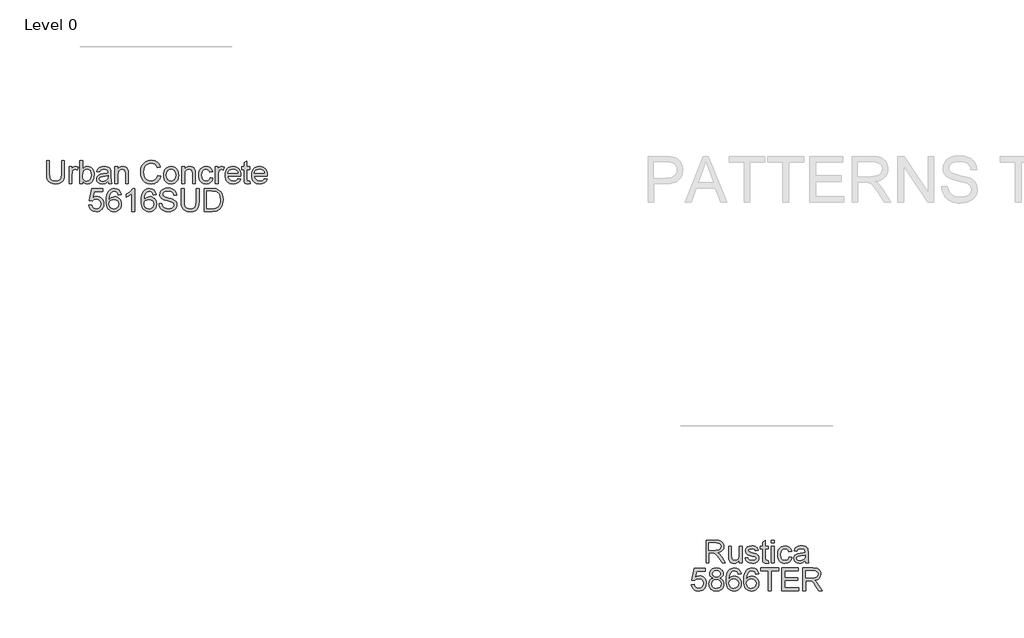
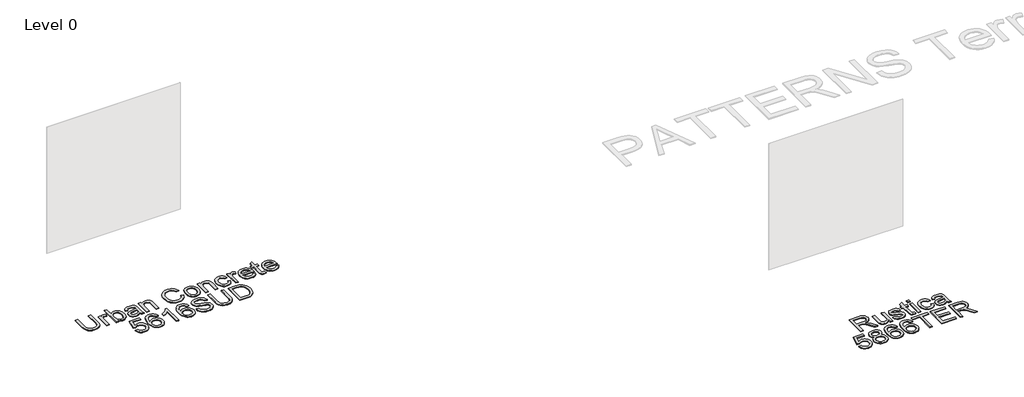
# One storey, part 16 of 29: 2 proxies.
"""IFC4 building model written with IfcOpenShell, lengths in millimetres."""

from ifc_helpers import new_model, si_unit, origin, origin_with_axes, place, context, project, spatial, polyline, outline, extrude, element, save

model = new_model("IFC4")

# Units and contexts
model_context = context("Model", 3, world=origin())
ifc_project = project(units=[si_unit("LENGTHUNIT", "METRE", prefix="MILLI")], contexts=[model_context])

# Site, building, storey
site = spatial("IfcSite", under=ifc_project)
building = spatial("IfcBuilding", under=site)
storey = spatial("IfcBuildingStorey", under=building, Name="Level 0", Elevation=0.0)

# Proxies
placement = place(None, origin())
element("IfcBuildingElementProxy", 1, Name="300mm Arial", ObjectType="300mm Arial", at=placement, inside=storey, context=model_context, shape_type="SweptSolid", body=[
    extrude(outline(polyline([(9400.2075826, -16709.4915635), (9437.8786989, -16709.4915635), (9437.8786989, -16883.3525945), (9435.321919, -16924.0679343), (9427.6515794, -16955.4206773), (9413.3225757, -16979.6089185), (9390.7898035, -16998.8307527), (9359.9980805, -17011.3847258), (9320.8922244, -17015.5693835), (9282.641694, -17011.9273518), (9252.0615031, -17001.0012565), (9229.1424548, -16983.1681768), (9213.875352, -16958.8051917), (9205.2945045, -16926.1280734), (9202.434222, -16883.3525945), (9202.434222, -16709.4915635), (9240.1053383, -16709.4915635), (9240.1053383, -16882.0282193), (9241.9631424, -16915.8825599), (9247.5365546, -16939.4545987), (9257.6349154, -16955.7793623), (9273.0675651, -16967.8918769), (9293.1907102, -16975.3966696), (9317.3605573, -16977.8982672), (9355.6754671, -16972.9502544), (9370.0182664, -16966.7652383), (9381.1512953, -16958.1062159), (9389.488421, -16945.9293218), (9395.4435108, -16929.1906911), (9400.2075826, -16882.0282193), (9400.2075826, -16709.4915635)])), origin_with_axes(), (0.0, 0.0, 1.0), 10.0),
    extrude(outline(polyline([(9499.0942629, -17010.860494), (9499.0942629, -16789.5426857), (9532.0564897, -16789.5426857), (9532.0564897, -16822.2841833), (9544.2333837, -16803.3014723), (9555.4537846, -16792.1178596), (9566.7109736, -16786.654812), (9578.9982323, -16784.8337961), (9597.760214, -16787.7400639), (9616.8165014, -16796.4588672), (9604.2349371, -16830.2304343), (9590.9911853, -16824.4362929), (9577.7474335, -16822.5049125), (9566.4994415, -16824.3627165), (9556.447066, -16829.9361288), (9548.3260709, -16838.8020848), (9542.8722203, -16850.5375205), (9538.2920895, -16871.5803706), (9536.7653792, -16894.5362071), (9536.7653792, -17010.860494), (9499.0942629, -17010.860494)])), origin_with_axes(), (0.0, 0.0, 1.0), 10.0),
    extrude(outline(polyline([(9678.0320654, -17010.860494), (9640.3609491, -17010.860494), (9640.3609491, -16709.4915635), (9678.0320654, -16709.4915635), (9678.0320654, -16821.2541137), (9690.4204916, -16805.3202248), (9704.4092044, -16793.9388755), (9719.998204, -16787.110066), (9737.1874902, -16784.8337961), (9756.5932654, -16786.8847383), (9774.9321829, -16793.0375646), (9791.1557789, -16802.9059992), (9804.2155897, -16816.1037657), (9814.4519062, -16832.5021057), (9822.2050193, -16851.9722603), (9827.0886528, -16873.7048891), (9828.7165306, -16896.8906519), (9827.0311712, -16923.64487), (9821.975093, -16947.1801206), (9813.5482961, -16967.4964038), (9801.7507803, -16984.5937195), (9787.5896228, -16998.1455725), (9772.0719004, -17007.8254675), (9755.1976131, -17013.6334045), (9736.966761, -17015.5693835), (9719.2118562, -17013.0723845), (9703.4711053, -17005.5813874), (9689.7445084, -16993.0963921), (9678.0320654, -16975.6173988), (9678.0320654, -17010.860494)]), holes=[polyline([(9678.0320654, -16898.6564855), (9680.6072393, -16930.0736078), (9688.3327612, -16951.3371872), (9697.4608332, -16962.9576597), (9708.0696303, -16971.2579972), (9720.1591523, -16976.2381997), (9733.7293994, -16977.8982672), (9755.4712253, -16973.0054367), (9774.0492661, -16958.3269451), (9786.7963772, -16933.9547629), (9791.0454143, -16899.9808606), (9786.9711212, -16865.5103177), (9774.7482419, -16841.414047), (9756.7496153, -16827.2321961), (9735.3480802, -16822.5049125), (9713.6062543, -16827.397743), (9695.0282135, -16842.0762346), (9682.2811024, -16866.0069584), (9678.0320654, -16898.6564855)])]), origin_with_axes(), (0.0, 0.0, 1.0), 10.0),
    extrude(outline(polyline([(10012.3632226, -16982.6071568), (9994.364596, -16998.0398064), (9975.8325405, -17008.1381672), (9956.3439918, -17013.7115794), (9935.4758856, -17015.5693835), (9903.9943839, -17011.0996173), (9880.7718329, -16997.6903186), (9866.4520262, -16977.3280501), (9861.6787574, -16951.9993748), (9863.4813791, -16936.3827841), (9868.8892445, -16922.2009331), (9877.2309687, -16910.0608273), (9887.8351672, -16900.5694718), (9914.2123063, -16888.2086368), (9946.806651, -16882.5432541), (9985.3238959, -16876.5835657), (10012.1424934, -16869.5938078), (10012.3632226, -16861.2060983), (10009.7696545, -16844.3938912), (10001.9889503, -16833.3942195), (9984.5881319, -16825.2272392), (9960.3447085, -16822.5049125), (9937.9039068, -16824.3167313), (9922.2321338, -16829.7521878), (9911.5451618, -16839.8045633), (9904.0587632, -16855.4671392), (9866.3876469, -16850.7582497), (9872.9267494, -16830.156858), (9882.6848193, -16813.9700502), (9896.5723646, -16801.590821), (9915.4998932, -16792.4121652), (9938.6488678, -16786.7283884), (9965.2007508, -16784.8337961), (9990.6673819, -16786.5076592), (10010.8549064, -16791.5292485), (10026.0760239, -16799.0800264), (10036.6434343, -16808.3414556), (10043.6515863, -16819.7917827), (10048.1949289, -16833.9092543), (10050.0343389, -16866.8714811), (10050.0343389, -16913.7396473), (10051.9473253, -16979.1858542), (10059.452118, -17010.860494), (10021.7810017, -17010.860494), (10012.3632226, -16982.6071568)]), holes=[polyline([(10012.3632226, -16907.2649241), (9951.589117, -16918.8164188), (9919.1787132, -16924.9232599), (9904.5002216, -16934.8560738), (9899.3498737, -16949.3506244), (9902.1549739, -16960.5526311), (9910.5702745, -16969.7312869), (9924.4118346, -16975.8565221), (9943.4957131, -16977.8982672), (9963.7292228, -16975.64499), (9981.6082878, -16968.8851583), (9996.1028384, -16958.9247533), (10006.1828051, -16947.069756), (10010.6525713, -16934.8560738), (10012.1424934, -16917.933502), (10012.3632226, -16907.2649241)])]), origin_with_axes(), (0.0, 0.0, 1.0), 10.0),
    extrude(outline(polyline([(10101.8321238, -17010.860494), (10101.8321238, -16789.5426857), (10139.5032401, -16789.5426857), (10139.5032401, -16820.4447733), (10152.5906421, -16804.8649708), (10168.3084003, -16793.7365404), (10186.6565148, -16787.0594822), (10207.6349856, -16784.8337961), (10226.2038293, -16786.6272209), (10243.2091746, -16792.0074951), (10257.3910255, -16800.303234), (10267.4893862, -16810.8430532), (10278.7833635, -16838.5445674), (10280.7699263, -16874.964885), (10280.7699263, -17010.860494), (10243.09881, -17010.860494), (10243.09881, -16880.0416565), (10238.7578024, -16846.7115477), (10232.7521288, -16836.7879309), (10223.4171232, -16829.0900002), (10211.4517613, -16824.1511844), (10197.555019, -16822.5049125), (10175.4912963, -16826.2021265), (10156.6833293, -16837.2937687), (10149.1670403, -16846.3482643), (10143.7982624, -16858.7228949), (10139.5032401, -16893.4325611), (10139.5032401, -17010.860494), (10101.8321238, -17010.860494)])), origin_with_axes(), (0.0, 0.0, 1.0), 10.0),
    extrude(outline(polyline([(10666.8988684, -16903.733257), (10704.5699847, -16913.4453417), (10697.1157758, -16936.872527), (10687.1875604, -16957.3428607), (10674.7853387, -16974.856343), (10659.9091105, -16989.4129737), (10642.8945682, -17000.856403), (10624.0774042, -17009.0302811), (10603.4576183, -17013.9346079), (10581.0352107, -17015.5693835), (10537.3400267, -17010.6213707), (10502.6395576, -16995.7773322), (10476.0416893, -16971.5523028), (10456.6543082, -16938.4613173), (10444.817705, -16899.5577963), (10440.8721706, -16857.8951604), (10445.3327398, -16813.9516561), (10458.7144473, -16776.0046283), (10480.3183175, -16745.2588905), (10509.4453745, -16722.9192564), (10543.9894938, -16709.3168196), (10581.8445511, -16704.782674), (10623.1485021, -16710.6503918), (10641.1172383, -16717.9850391), (10657.2971483, -16728.2535453), (10671.4215177, -16741.1845974), (10683.2236319, -16756.5068825), (10699.8610952, -16794.3251516), (10662.1899789, -16803.3014723), (10649.130168, -16775.8298843), (10631.2878913, -16756.9851291), (10608.4424194, -16746.086625), (10580.3730231, -16742.4537903), (10548.0178017, -16746.4820981), (10521.4383275, -16758.5670217), (10501.2691971, -16777.439368), (10488.1450069, -16801.8299443), (10480.9437169, -16829.4026999), (10478.5432869, -16857.821584), (10481.3851753, -16892.6232207), (10489.9108405, -16922.7159679), (10504.4421793, -16946.9501944), (10525.3010885, -16964.1762688), (10550.3078671, -16974.4677676), (10577.2828144, -16977.8982672), (10608.7275279, -16973.2261659), (10634.929923, -16959.2098619), (10654.7127773, -16935.996508), (10666.8988684, -16903.733257)])), origin_with_axes(), (0.0, 0.0, 1.0), 10.0),
    extrude(outline(polyline([(10742.241101, -16900.2015898), (10744.2782476, -16871.5389839), (10750.3896872, -16846.8403064), (10760.5754199, -16826.1055575), (10774.8354458, -16809.334737), (10789.1920406, -16798.6155754), (10805.0385576, -16790.9590314), (10822.3749966, -16786.3651049), (10841.2013577, -16784.8337961), (10861.9843912, -16786.698498), (10880.7762633, -16792.2926036), (10897.5769742, -16801.6161129), (10912.3865238, -16814.669026), (10924.4737466, -16831.0098843), (10933.1074772, -16850.1972296), (10938.2877155, -16872.2310619), (10940.0144616, -16897.1113811), (10936.9610411, -16935.1687735), (10927.8007794, -16964.1394806), (10912.800391, -16985.8353213), (10892.2265904, -17002.0681143), (10867.7900289, -17012.1940662), (10841.2013577, -17015.5693835), (10820.1148216, -17013.7115794), (10801.1482055, -17008.1381672), (10784.3015094, -16998.8491468), (10769.5747333, -16985.8445183), (10757.6162691, -16969.3450108), (10749.0745091, -16949.5713536), (10743.949453, -16926.5235466), (10742.241101, -16900.2015898)]), holes=[polyline([(10779.9122173, -16900.1280134), (10784.271619, -16934.2214773), (10797.3498239, -16958.5108861), (10817.0315106, -16973.0514219), (10841.2013577, -16977.8982672), (10865.2608402, -16973.0238308), (10884.9057387, -16958.4005215), (10897.9839437, -16933.789216), (10902.3433453, -16898.950791), (10897.9563525, -16865.8506085), (10884.7953741, -16841.8922936), (10865.1228844, -16827.3517577), (10841.2013577, -16822.5049125), (10817.0315106, -16827.3333636), (10797.3498239, -16841.8187172), (10784.271619, -16866.0529436), (10779.9122173, -16900.1280134)])]), origin_with_axes(), (0.0, 0.0, 1.0), 10.0),
    extrude(outline(polyline([(10982.3944675, -17010.860494), (10982.3944675, -16789.5426857), (11020.0655838, -16789.5426857), (11020.0655838, -16820.4447733), (11033.1529857, -16804.8649708), (11048.870744, -16793.7365404), (11067.2188585, -16787.0594822), (11088.1973293, -16784.8337961), (11106.766173, -16786.6272209), (11123.7715182, -16792.0074951), (11137.9533691, -16800.303234), (11148.0517299, -16810.8430532), (11159.3457071, -16838.5445674), (11161.3322699, -16874.964885), (11161.3322699, -17010.860494), (11123.6611536, -17010.860494), (11123.6611536, -16880.0416565), (11119.3201461, -16846.7115477), (11113.3144725, -16836.7879309), (11103.9794669, -16829.0900002), (11092.014105, -16824.1511844), (11078.1173626, -16822.5049125), (11056.0536399, -16826.2021265), (11037.2456729, -16837.2937687), (11029.7293839, -16846.3482643), (11024.3606061, -16858.7228949), (11020.0655838, -16893.4325611), (11020.0655838, -17010.860494), (10982.3944675, -17010.860494)])), origin_with_axes(), (0.0, 0.0, 1.0), 10.0),
    extrude(outline(polyline([(11354.396741, -16930.8093718), (11392.0678573, -16935.5182614), (11381.5648263, -16969.0231141), (11361.8279573, -16994.3425924), (11334.7150542, -17010.2626857), (11302.0839213, -17015.5693835), (11280.9559984, -17013.7184772), (11262.0123749, -17008.1657584), (11245.2530508, -16998.9112269), (11230.678026, -16985.9548829), (11218.8805103, -16969.5404481), (11210.4537133, -16949.9116444), (11205.3976352, -16927.0684718), (11203.7122758, -16901.0109302), (11206.5909524, -16867.4876834), (11215.2269822, -16838.4342028), (11229.758321, -16814.9725286), (11250.3229245, -16798.2247008), (11274.925033, -16788.1815223), (11301.5688865, -16784.8337961), (11333.3998761, -16789.4323211), (11358.8481131, -16803.2278959), (11377.1042571, -16825.4847566), (11387.3589678, -16855.4671392), (11349.6878514, -16860.1760288), (11342.8544434, -16843.7409006), (11332.2134567, -16831.9594797), (11318.3535025, -16824.8685543), (11301.8631921, -16822.5049125), (11277.518601, -16827.1586197), (11258.1955992, -16841.1197414), (11245.5864439, -16865.1424357), (11241.3833921, -16899.9808606), (11245.4944734, -16935.2883351), (11257.8277173, -16959.3938029), (11276.8012312, -16973.2721511), (11300.8331225, -16977.8982672), (11320.3400653, -16975.0103936), (11336.333735, -16966.3467726), (11347.9680031, -16951.6866751), (11354.396741, -16930.8093718)])), origin_with_axes(), (0.0, 0.0, 1.0), 10.0),
    extrude(outline(polyline([(11425.0300841, -17010.860494), (11425.0300841, -16789.5426857), (11457.9923108, -16789.5426857), (11457.9923108, -16822.2841833), (11470.1692049, -16803.3014723), (11481.3896057, -16792.1178596), (11492.6467948, -16786.654812), (11504.9340534, -16784.8337961), (11523.6960352, -16787.7400639), (11542.7523225, -16796.4588672), (11530.1707583, -16830.2304343), (11516.9270065, -16824.4362929), (11503.6832546, -16822.5049125), (11492.4352626, -16824.3627165), (11482.3828871, -16829.9361288), (11474.2618921, -16838.8020848), (11468.8080415, -16850.5375205), (11464.2279106, -16871.5803706), (11462.7012004, -16894.5362071), (11462.7012004, -17010.860494), (11425.0300841, -17010.860494)])), origin_with_axes(), (0.0, 0.0, 1.0), 10.0),
    extrude(outline(polyline([(11721.2486666, -16944.9360404), (11758.1840189, -16949.64493), (11744.8758877, -16977.4752029), (11723.6398995, -16998.2789297), (11694.954301, -17011.2467701), (11659.2973386, -17015.5693835), (11635.9230363, -17013.7046817), (11615.0963169, -17008.1105761), (11596.8171802, -16998.7870668), (11581.0856264, -16985.7341537), (11568.4350843, -16969.3151204), (11559.3989828, -16949.8932503), (11553.9773219, -16927.4685435), (11552.1701016, -16902.0409998), (11553.995716, -16875.7512327), (11559.4725592, -16852.5792656), (11568.6006312, -16832.5250983), (11581.379932, -16815.5887309), (11597.0700991, -16802.133447), (11614.93077, -16792.5225298), (11634.9619446, -16786.7559796), (11657.163623, -16784.8337961), (11678.6502308, -16786.751381), (11698.0812979, -16792.5041357), (11715.4568244, -16802.0920602), (11730.7768102, -16815.5151545), (11743.2824988, -16832.4147337), (11752.2151335, -16852.4321128), (11757.5747143, -16875.5672917), (11759.3612413, -16901.8202706), (11759.1405121, -16911.9738137), (11589.8412179, -16911.9738137), (11596.3619263, -16940.1719686), (11611.5094674, -16960.902119), (11633.370855, -16973.6492302), (11660.0331026, -16977.8982672), (11680.0826713, -16975.9300985), (11696.9684549, -16970.0255925), (11710.6904533, -16959.8168672), (11721.2486666, -16944.9360404)]), holes=[polyline([(11589.8412179, -16874.3026974), (11721.690125, -16874.3026974), (11716.5949593, -16854.4002814), (11706.6069632, -16840.1632482), (11684.6444081, -16826.9194964), (11657.0164702, -16822.5049125), (11631.6234155, -16826.0273826), (11610.6265506, -16836.5947929), (11596.0308325, -16853.0667092), (11589.8412179, -16874.3026974)])]), origin_with_axes(), (0.0, 0.0, 1.0), 10.0),
    extrude(outline(polyline([(11877.0834797, -16979.4433716), (11881.7923693, -17011.96414), (11853.6126084, -17015.5693835), (11835.5312084, -17014.005885), (11822.0483333, -17009.3153896), (11812.5201896, -17002.0865084), (11806.3029839, -16992.9078526), (11802.8816813, -16977.1441091), (11801.7412471, -16950.1599648), (11801.7412471, -16827.213802), (11773.4879099, -16827.213802), (11773.4879099, -16789.5426857), (11801.7412471, -16789.5426857), (11801.7412471, -16735.758338), (11839.4123634, -16713.6118419), (11839.4123634, -16789.5426857), (11877.0834797, -16789.5426857), (11877.0834797, -16827.213802), (11839.4123634, -16827.213802), (11839.4123634, -16949.0563188), (11841.3989262, -16968.4804881), (11847.8368611, -16975.3598814), (11860.6759427, -16977.8982672), (11877.0834797, -16979.4433716)])), origin_with_axes(), (0.0, 0.0, 1.0), 10.0),
    extrude(outline(polyline([(12069.7064924, -16944.9360404), (12106.6418447, -16949.64493), (12093.3337135, -16977.4752029), (12072.0977254, -16998.2789297), (12043.4121268, -17011.2467701), (12007.7551644, -17015.5693835), (11984.3808621, -17013.7046817), (11963.5541427, -17008.1105761), (11945.2750061, -16998.7870668), (11929.5434522, -16985.7341537), (11916.8929101, -16969.3151204), (11907.8568086, -16949.8932503), (11902.4351477, -16927.4685435), (11900.6279274, -16902.0409998), (11902.4535418, -16875.7512327), (11907.930385, -16852.5792656), (11917.058457, -16832.5250983), (11929.8377578, -16815.5887309), (11945.5279249, -16802.133447), (11963.3885958, -16792.5225298), (11983.4197704, -16786.7559796), (12005.6214488, -16784.8337961), (12027.1080566, -16786.751381), (12046.5391238, -16792.5041357), (12063.9146502, -16802.0920602), (12079.2346361, -16815.5151545), (12091.7403247, -16832.4147337), (12100.6729594, -16852.4321128), (12106.0325402, -16875.5672917), (12107.8190671, -16901.8202706), (12107.5983379, -16911.9738137), (11938.2990437, -16911.9738137), (11944.8197521, -16940.1719686), (11959.9672932, -16960.902119), (11981.8286808, -16973.6492302), (12008.4909284, -16977.8982672), (12028.5404971, -16975.9300985), (12045.4262807, -16970.0255925), (12059.1482791, -16959.8168672), (12069.7064924, -16944.9360404)]), holes=[polyline([(11938.2990437, -16874.3026974), (12070.1479508, -16874.3026974), (12065.0527852, -16854.4002814), (12055.064789, -16840.1632482), (12033.1022339, -16826.9194964), (12005.474296, -16822.5049125), (11980.0812413, -16826.0273826), (11959.0843765, -16836.5947929), (11944.4886583, -16853.0667092), (11938.2990437, -16874.3026974)])]), origin_with_axes(), (0.0, 0.0, 1.0), 10.0),
    extrude(outline(polyline([(9760.4376323, -17296.7338254), (9798.1087486, -17292.0249358), (9805.0249301, -17314.6404815), (9817.0914595, -17330.8364863), (9834.2531546, -17340.5761621), (9856.454833, -17343.8227207), (9883.4573715, -17339.3069693), (9903.6908812, -17325.7597148), (9916.3276277, -17304.7444558), (9920.5398766, -17277.8246908), (9916.5943422, -17252.4776213), (9904.757739, -17233.0902402), (9884.9380965, -17220.7845875), (9857.0434442, -17216.6827032), (9838.7689061, -17218.3197781), (9823.9708528, -17223.2310027), (9802.8176381, -17240.2271509), (9765.1465218, -17235.5182614), (9798.1087486, -17080.1249066), (9944.0843243, -17080.1249066), (9944.0843243, -17117.7960229), (9828.5693778, -17117.7960229), (9812.4561464, -17200.790201), (9839.3667143, -17184.4562404), (9867.5648693, -17179.0115869), (9885.9106845, -17180.6992456), (9902.7619792, -17185.7622215), (9918.1187532, -17194.2005148), (9931.9810066, -17206.0141254), (9943.4566256, -17220.4810848), (9951.6534963, -17236.8794248), (9956.5716187, -17255.2091452), (9958.2109929, -17275.470246), (9952.3064869, -17313.1413624), (9944.9258543, -17329.9351754), (9934.5929688, -17345.3678251), (9918.9395899, -17361.1729553), (9900.6742488, -17372.4623341), (9879.7969456, -17379.2359613), (9856.3076802, -17381.4938371), (9819.3079486, -17375.6904986), (9803.6292778, -17368.4363255), (9789.8314037, -17358.2804832), (9778.3511862, -17345.7288093), (9769.6254851, -17331.2871418), (9760.4376323, -17296.7338254)])), origin_with_axes(), (0.0, 0.0, 1.0), 10.0),
    extrude(outline(polyline([(10184.2376907, -17155.4671392), (10146.5665744, -17160.1760288), (10140.4965215, -17141.5060175), (10132.292753, -17128.7589064), (10115.2046343, -17117.0050766), (10094.5480603, -17113.0871334), (10077.0368773, -17115.3680017), (10060.5557639, -17122.2106069), (10046.4015042, -17136.622384), (10034.8408125, -17156.4604206), (10027.0325171, -17184.5206198), (10024.1354464, -17223.5988847), (10039.2461994, -17205.9681401), (10057.3551906, -17193.5429257), (10077.4507446, -17186.1760888), (10098.5211858, -17183.7204764), (10116.62098, -17185.3989381), (10133.3228226, -17190.4343229), (10148.6267136, -17198.8266309), (10162.532653, -17210.5758621), (10174.0887462, -17224.9830407), (10182.3430985, -17241.349191), (10187.2957098, -17259.6743129), (10188.9465803, -17279.9584064), (10185.8379774, -17306.9333537), (10176.5121688, -17331.9401323), (10161.7417067, -17353.1485293), (10142.2991433, -17368.7283318), (10119.0673953, -17378.3024607), (10092.9293795, -17381.4938371), (10070.472483, -17379.3785156), (10050.1906887, -17373.0325512), (10032.0839968, -17362.4559438), (10016.1524071, -17347.6486935), (10003.1638734, -17327.9854009), (9993.8863494, -17302.8406665), (9988.3198349, -17272.2144904), (9986.4643301, -17236.1068726), (9988.5244693, -17195.6260575), (9994.7048868, -17161.0773396), (10005.0055827, -17132.4607189), (10019.4265569, -17109.7761954), (10035.0569432, -17094.7436174), (10053.1797299, -17084.0060617), (10073.7949172, -17077.5635282), (10096.9025051, -17075.4160171), (10129.9567023, -17080.7319119), (10156.4258119, -17096.6795964), (10174.9670644, -17122.0082718), (10184.2376907, -17155.4671392)]), holes=[polyline([(10024.1354464, -17279.3697952), (10026.3151472, -17296.0624407), (10032.8542497, -17312.0009282), (10043.0077928, -17325.7045325), (10056.0308154, -17335.6925287), (10071.7485737, -17341.7901727), (10089.9863236, -17343.8227207), (10114.8459494, -17339.6104719), (10134.3896804, -17326.9737254), (10147.0540181, -17307.1080976), (10151.275464, -17281.2092052), (10147.1092004, -17256.3495793), (10134.6104096, -17237.3944595), (10114.7355848, -17225.3923095), (10088.4412192, -17221.3915928), (10063.6183816, -17225.3923095), (10042.86064, -17237.3944595), (10028.8167448, -17255.8897269), (10024.1354464, -17279.3697952)])]), origin_with_axes(), (0.0, 0.0, 1.0), 10.0),
    extrude(outline(polyline([(10363.1754932, -17376.7849475), (10325.5043769, -17376.7849475), (10325.5043769, -17141.9290818), (10289.8198233, -17167.3497277), (10250.1621443, -17186.3692268), (10250.1621443, -17150.7582497), (10279.7490537, -17134.6634124), (10305.3812317, -17115.5151545), (10325.5871503, -17095.1528861), (10338.8952815, -17075.4160171), (10363.1754932, -17075.4160171), (10363.1754932, -17376.7849475)])), origin_with_axes(), (0.0, 0.0, 1.0), 10.0),
    extrude(outline(polyline([(10645.7088655, -17155.4671392), (10608.0377492, -17160.1760288), (10601.9676962, -17141.5060175), (10593.7639278, -17128.7589064), (10576.6758091, -17117.0050766), (10556.0192351, -17113.0871334), (10538.5080521, -17115.3680017), (10522.0269387, -17122.2106069), (10507.8726789, -17136.622384), (10496.3119872, -17156.4604206), (10488.5036919, -17184.5206198), (10485.6066212, -17223.5988847), (10500.7173741, -17205.9681401), (10518.8263653, -17193.5429257), (10538.9219193, -17186.1760888), (10559.9923606, -17183.7204764), (10578.0921548, -17185.3989381), (10594.7939973, -17190.4343229), (10610.0978883, -17198.8266309), (10624.0038278, -17210.5758621), (10635.5599209, -17224.9830407), (10643.8142732, -17241.349191), (10648.7668846, -17259.6743129), (10650.417755, -17279.9584064), (10647.3091522, -17306.9333537), (10637.9833436, -17331.9401323), (10623.2128815, -17353.1485293), (10603.770318, -17368.7283318), (10580.53857, -17378.3024607), (10554.4005543, -17381.4938371), (10531.9436577, -17379.3785156), (10511.6618635, -17373.0325512), (10493.5551715, -17362.4559438), (10477.6235819, -17347.6486935), (10464.6350482, -17327.9854009), (10455.3575241, -17302.8406665), (10449.7910097, -17272.2144904), (10447.9355049, -17236.1068726), (10449.995644, -17195.6260575), (10456.1760616, -17161.0773396), (10466.4767574, -17132.4607189), (10480.8977316, -17109.7761954), (10496.5281179, -17094.7436174), (10514.6509047, -17084.0060617), (10535.266092, -17077.5635282), (10558.3736798, -17075.4160171), (10591.4278771, -17080.7319119), (10617.8969866, -17096.6795964), (10636.4382392, -17122.0082718), (10645.7088655, -17155.4671392)]), holes=[polyline([(10485.6066212, -17279.3697952), (10487.786322, -17296.0624407), (10494.3254245, -17312.0009282), (10504.4789675, -17325.7045325), (10517.5019902, -17335.6925287), (10533.2197484, -17341.7901727), (10551.4574983, -17343.8227207), (10576.3171241, -17339.6104719), (10595.8608551, -17326.9737254), (10608.5251928, -17307.1080976), (10612.7466387, -17281.2092052), (10608.5803751, -17256.3495793), (10596.0815843, -17237.3944595), (10576.2067595, -17225.3923095), (10549.9123939, -17221.3915928), (10525.0895563, -17225.3923095), (10504.3318147, -17237.3944595), (10490.2879196, -17255.8897269), (10485.6066212, -17279.3697952)])]), origin_with_axes(), (0.0, 0.0, 1.0), 10.0),
    extrude(outline(polyline([(10683.3799818, -17273.1893777), (10721.0510981, -17273.1893777), (10725.3737115, -17294.0942721), (10733.1912039, -17310.8972822), (10745.3864921, -17324.2330045), (10762.8424927, -17334.7360355), (10784.1796485, -17341.5510494), (10808.0184017, -17343.8227207), (10829.0060696, -17342.1028724), (10847.3817752, -17336.9433274), (10862.271799, -17328.7763471), (10872.8024211, -17318.0341929), (10879.0656121, -17305.700949), (10881.1533424, -17292.7606998), (10879.5898439, -17280.1515444), (10874.8993485, -17269.2530403), (10865.3712048, -17259.9548229), (10849.2947616, -17252.1465276), (10794.4435561, -17237.7623415), (10758.4371058, -17228.2433949), (10735.3984959, -17219.1843008), (10716.6457112, -17206.510766), (10703.3559741, -17191.1516928), (10695.4373142, -17173.4381747), (10692.7977609, -17153.7013056), (10696.0627136, -17131.637583), (10705.8575717, -17111.0637824), (10721.9248178, -17093.6261758), (10744.0069346, -17080.9710352), (10770.5128323, -17073.2731044), (10799.8514215, -17070.7071275), (10831.6364258, -17073.3926661), (10859.4483047, -17081.4492818), (10882.2937766, -17094.7114277), (10899.1795602, -17113.013557), (10909.8665321, -17135.2152354), (10914.1155692, -17160.1760288), (10876.4444529, -17160.1760288), (10869.5282713, -17137.6984389), (10855.1072971, -17121.4748429), (10832.5745249, -17111.6523936), (10801.3229494, -17108.3782438), (10769.33561, -17111.6156054), (10747.3914489, -17121.3276901), (10734.6995201, -17135.6199056), (10730.4688772, -17152.5976597), (10733.4671154, -17167.0738162), (10742.4618302, -17178.7172813), (10763.7254095, -17189.1283418), (10803.9716998, -17199.7601314), (10845.5055771, -17209.8584922), (10870.6319173, -17218.669266), (10892.1070288, -17232.3360821), (10907.089023, -17249.2034716), (10915.8905998, -17269.0874934), (10918.8244587, -17291.8042066), (10915.4491414, -17315.0267576), (10905.3231895, -17336.869751), (10888.8604702, -17355.668521), (10866.4748508, -17369.7584014), (10839.5550858, -17378.5599781), (10809.4899297, -17381.4938371), (10772.5821686, -17378.3300519), (10742.2043128, -17368.8386964), (10718.0068746, -17352.9829824), (10699.640366, -17330.7261217), (10687.849748, -17303.6132187), (10683.3799818, -17273.1893777)])), origin_with_axes(), (0.0, 0.0, 1.0), 10.0),
    extrude(outline(polyline([(11173.1044938, -17075.4160171), (11210.7756101, -17075.4160171), (11210.7756101, -17249.277048), (11208.2188302, -17289.9923878), (11200.5484906, -17321.3451308), (11186.2194869, -17345.533372), (11163.6867147, -17364.7552063), (11132.8949917, -17377.3091794), (11093.7891356, -17381.4938371), (11055.5386052, -17377.8518053), (11024.9584143, -17366.92571), (11002.039366, -17349.0926303), (10986.7722632, -17324.7296452), (10978.1914157, -17292.052527), (10975.3311332, -17249.277048), (10975.3311332, -17075.4160171), (11013.0022495, -17075.4160171), (11013.0022495, -17247.9526728), (11014.8600535, -17281.8070134), (11020.4334658, -17305.3790523), (11030.5318265, -17321.7038158), (11045.9644762, -17333.8163305), (11066.0876214, -17341.3211232), (11090.2574684, -17343.8227207), (11128.5723782, -17338.8747079), (11142.9151775, -17332.6896919), (11154.0482064, -17324.0306694), (11162.3853321, -17311.8537754), (11168.3404219, -17295.1151446), (11173.1044938, -17247.9526728), (11173.1044938, -17075.4160171)])), origin_with_axes(), (0.0, 0.0, 1.0), 10.0),
    extrude(outline(polyline([(11276.7000636, -17376.7849475), (11276.7000636, -17075.4160171), (11380.6635154, -17075.4160171), (11434.4478631, -17079.7570246), (11458.4705574, -17088.12634), (11478.7408554, -17101.3149095), (11499.5813704, -17124.270746), (11514.4254089, -17152.8183889), (11523.3097591, -17186.406015), (11526.2712091, -17224.4818015), (11524.2662523, -17256.8278259), (11518.2513816, -17285.2926953), (11509.09112, -17309.5269217), (11497.6499899, -17329.1810173), (11484.4798145, -17344.6964405), (11470.1324167, -17356.5146496), (11453.6605003, -17365.2794381), (11434.1167693, -17371.6345996), (11385.6667106, -17376.7849475), (11276.7000636, -17376.7849475)]), holes=[polyline([(11314.3711799, -17339.1138312), (11381.0313974, -17339.1138312), (11408.604153, -17337.7526678), (11429.5182444, -17333.6691777), (11445.300382, -17327.1024841), (11457.477276, -17318.2917103), (11470.564678, -17301.9853408), (11480.3963243, -17280.8781114), (11486.5491507, -17254.8780514), (11488.6000928, -17223.8931903), (11484.580982, -17182.8375597), (11472.5236496, -17152.5240833), (11454.708964, -17131.7019623), (11433.4177935, -17119.1203981), (11411.749544, -17114.5954496), (11380.0013278, -17113.0871334), (11314.3711799, -17113.0871334), (11314.3711799, -17339.1138312)])]), origin_with_axes(), (0.0, 0.0, 1.0), 10.0),
])
element("IfcBuildingElementProxy", 2, Name="300mm Arial", ObjectType="300mm Arial", at=placement, inside=storey, context=model_context, shape_type="SweptSolid", body=[
    extrude(outline(polyline([(17883.034074, -22008.860494), (17883.034074, -21707.4915635), (18012.8964183, -21707.4915635), (18047.7992226, -21709.5241116), (18073.1922773, -21715.6217556), (18091.751924, -21726.8789447), (18106.1545041, -21744.3901276), (18115.3975392, -21766.1043624), (18118.4785509, -21789.9707069), (18113.3741883, -21819.6587839), (18098.0611002, -21844.2700893), (18086.461321, -21854.2994722), (18072.0794343, -21862.3147012), (18034.969338, -21872.3026974), (18056.3800702, -21888.4159288), (18086.9142758, -21927.1906911), (18137.1669563, -22008.860494), (18093.3889989, -22008.860494), (18054.1727782, -21946.3941312), (18025.8458646, -21905.0441949), (18005.9434486, -21885.509661), (17988.0275955, -21878.3359621), (17966.1754049, -21877.0115869), (17920.7051903, -21877.0115869), (17920.7051903, -22008.860494), (17883.034074, -22008.860494)]), holes=[polyline([(17920.7051903, -21839.3404706), (18005.0237436, -21839.3404706), (18029.239576, -21838.0068984), (18048.0291489, -21834.0061817), (18062.1742116, -21827.0716061), (18072.4565133, -21816.9364571), (18078.7197043, -21804.6767896), (18080.8074346, -21791.3686584), (18076.825112, -21772.9929528), (18064.8781442, -21758.1857025), (18044.3227378, -21748.4184355), (18014.5150991, -21745.1626798), (17920.7051903, -21745.1626798), (17920.7051903, -21839.3404706)])]), origin_with_axes(), (0.0, 0.0, 1.0), 10.0),
    extrude(outline(polyline([(18320.9608011, -22008.860494), (18320.9608011, -21970.8214957), (18307.3307732, -21989.5236966), (18291.4566651, -22002.8824116), (18273.3384768, -22010.8976405), (18252.9762084, -22013.5693835), (18234.6280939, -22011.6931853), (18217.5491722, -22006.0645908), (18203.2201685, -21997.6033049), (18193.1218078, -21987.2290327), (18181.9014069, -21959.4907302), (18179.6941149, -21924.4683643), (18179.6941149, -21787.5426857), (18217.3652312, -21787.5426857), (18217.3652312, -21906.7364521), (18219.6460996, -21945.1433324), (18225.1367384, -21957.9548229), (18234.5453204, -21967.6944987), (18247.2464463, -21973.8473251), (18262.6147167, -21975.8982672), (18278.8659038, -21973.8013398), (18294.0686272, -21967.5105577), (18306.6042062, -21957.605335), (18314.85396, -21944.6650858), (18319.4340908, -21926.9423707), (18320.9608011, -21902.6897502), (18320.9608011, -21787.5426857), (18358.6319174, -21787.5426857), (18358.6319174, -22008.860494), (18320.9608011, -22008.860494)])), origin_with_axes(), (0.0, 0.0, 1.0), 10.0),
    extrude(outline(polyline([(18396.3030337, -21942.9360404), (18433.97415, -21938.2271509), (18439.9154442, -21954.3403823), (18451.4117566, -21966.1861825), (18468.5366635, -21973.470246), (18491.3637413, -21975.8982672), (18513.9149076, -21973.6725811), (18529.7706215, -21966.9955229), (18539.1516124, -21957.3202265), (18542.2786094, -21946.0998256), (18539.1332183, -21936.4981055), (18529.6970452, -21929.1772538), (18490.9222829, -21918.4350996), (18434.1948792, -21900.0042116), (18419.8382843, -21890.7427824), (18409.4364209, -21878.4831149), (18403.1180477, -21864.0069584), (18401.0119232, -21848.0960621), (18402.7041804, -21833.5003439), (18407.7809519, -21820.0266659), (18415.7823853, -21808.2084568), (18426.2486281, -21798.5791455), (18450.197746, -21787.4323211), (18482.6081498, -21782.8337961), (18507.1274847, -21784.6824032), (18528.4462464, -21790.2282242), (18545.5895473, -21798.9286334), (18557.5825004, -21810.2410048), (18565.5287515, -21825.0022698), (18570.5319466, -21844.0493601), (18532.8608303, -21848.7582497), (18528.1059555, -21836.9032524), (18518.6973735, -21827.972917), (18504.5431137, -21822.3719136), (18485.5512057, -21820.5049125), (18463.9197444, -21822.2891401), (18449.4987702, -21827.6418232), (18441.3869722, -21835.3673451), (18438.6830395, -21844.2700893), (18443.1711999, -21855.2329728), (18457.2242921, -21863.5471059), (18489.6714841, -21871.5669334), (18544.9641479, -21889.2988455), (18559.5690632, -21897.7785255), (18570.6423112, -21909.3852025), (18577.6228721, -21924.1556646), (18579.9497257, -21942.1267001), (18577.2182019, -21960.7047408), (18569.0236304, -21978.1791356), (18555.6787111, -21993.1795239), (18537.4961434, -22004.3355454), (18515.5335883, -22011.260924), (18490.8487065, -22013.5693835), (18452.8648905, -22009.1180114), (18425.1449821, -21995.763895), (18406.6405178, -21973.654187), (18396.3030337, -21942.9360404)])), origin_with_axes(), (0.0, 0.0, 1.0), 10.0),
    extrude(outline(polyline([(18702.3808537, -21977.4433716), (18707.0897432, -22009.96414), (18678.9099824, -22013.5693835), (18660.8285823, -22012.005885), (18647.3457072, -22007.3153896), (18637.8175635, -22000.0865084), (18631.6003578, -21990.9078526), (18628.1790553, -21975.1441091), (18627.0386211, -21948.1599648), (18627.0386211, -21825.213802), (18598.7852838, -21825.213802), (18598.7852838, -21787.5426857), (18627.0386211, -21787.5426857), (18627.0386211, -21733.758338), (18664.7097374, -21711.6118419), (18664.7097374, -21787.5426857), (18702.3808537, -21787.5426857), (18702.3808537, -21825.213802), (18664.7097374, -21825.213802), (18664.7097374, -21947.0563188), (18666.6963002, -21966.4804881), (18673.1342351, -21973.3598814), (18685.9733167, -21975.8982672), (18702.3808537, -21977.4433716)])), origin_with_axes(), (0.0, 0.0, 1.0), 10.0),
    extrude(outline(polyline([(18740.05197, -21745.1626798), (18740.05197, -21707.4915635), (18777.7230863, -21707.4915635), (18777.7230863, -21745.1626798), (18740.05197, -21745.1626798)])), origin_with_axes(), (0.0, 0.0, 1.0), 10.0),
    extrude(outline(polyline([(18740.05197, -22008.860494), (18740.05197, -21787.5426857), (18777.7230863, -21787.5426857), (18777.7230863, -22008.860494), (18740.05197, -22008.860494)])), origin_with_axes(), (0.0, 0.0, 1.0), 10.0),
    extrude(outline(polyline([(18975.4964469, -21928.8093718), (19013.1675632, -21933.5182614), (19002.6645322, -21967.0231141), (18982.9276632, -21992.3425924), (18955.8147602, -22008.2626857), (18923.1836272, -22013.5693835), (18902.0557044, -22011.7184772), (18883.1120809, -22006.1657584), (18866.3527567, -21996.9112269), (18851.7777319, -21983.9548829), (18839.9802162, -21967.5404481), (18831.5534192, -21947.9116444), (18826.4973411, -21925.0684718), (18824.8119817, -21899.0109302), (18827.6906583, -21865.4876834), (18836.3266881, -21836.4342028), (18850.8580269, -21812.9725286), (18871.4226305, -21796.2247008), (18896.0247389, -21786.1815223), (18922.6685924, -21782.8337961), (18954.499582, -21787.4323211), (18979.947819, -21801.2278959), (18998.2039631, -21823.4847566), (19008.4586737, -21853.4671392), (18970.7875574, -21858.1760288), (18963.9541493, -21841.7409006), (18953.3131626, -21829.9594797), (18939.4532084, -21822.8685543), (18922.962898, -21820.5049125), (18898.618307, -21825.1586197), (18879.2953052, -21839.1197414), (18866.6861498, -21863.1424357), (18862.483098, -21897.9808606), (18866.5941793, -21933.2883351), (18878.9274232, -21957.3938029), (18897.9009371, -21971.2721511), (18921.9328284, -21975.8982672), (18941.4397712, -21973.0103936), (18957.4334409, -21964.3467726), (18969.067709, -21949.6866751), (18975.4964469, -21928.8093718)])), origin_with_axes(), (0.0, 0.0, 1.0), 10.0),
    extrude(outline(polyline([(19187.3964761, -21980.6071568), (19169.3978495, -21996.0398064), (19150.865794, -22006.1381672), (19131.3772453, -22011.7115794), (19110.5091391, -22013.5693835), (19079.0276374, -22009.0996173), (19055.8050865, -21995.6903186), (19041.4852798, -21975.3280501), (19036.7120109, -21949.9993748), (19038.5146327, -21934.3827841), (19043.922498, -21920.2009331), (19052.2642222, -21908.0608273), (19062.8684208, -21898.5694718), (19089.2455598, -21886.2086368), (19121.8399046, -21880.5432541), (19160.3571495, -21874.5835657), (19187.1757469, -21867.5938078), (19187.3964761, -21859.2060983), (19184.8029081, -21842.3938912), (19177.0222039, -21831.3942195), (19159.6213855, -21823.2272392), (19135.377962, -21820.5049125), (19112.9371603, -21822.3167313), (19097.2653873, -21827.7521878), (19086.5784153, -21837.8045633), (19079.0920167, -21853.4671392), (19041.4209004, -21848.7582497), (19047.9600029, -21828.156858), (19057.7180728, -21811.9700502), (19071.6056181, -21799.590821), (19090.5331468, -21790.4121652), (19113.6821213, -21784.7283884), (19140.2340043, -21782.8337961), (19165.7006355, -21784.5076592), (19185.8881599, -21789.5292485), (19201.1092775, -21797.0800264), (19211.6766878, -21806.3414556), (19218.6848398, -21817.7917827), (19223.2281825, -21831.9092543), (19225.0675924, -21864.8714811), (19225.0675924, -21911.7396473), (19226.9805788, -21977.1858542), (19234.4853715, -22008.860494), (19196.8142552, -22008.860494), (19187.3964761, -21980.6071568)]), holes=[polyline([(19187.3964761, -21905.2649241), (19126.6223705, -21916.8164188), (19094.2119667, -21922.9232599), (19079.5334751, -21932.8560738), (19074.3831272, -21947.3506244), (19077.1882274, -21958.5526311), (19085.6035281, -21967.7312869), (19099.4450881, -21973.8565221), (19118.5289666, -21975.8982672), (19138.7624764, -21973.64499), (19156.6415413, -21966.8851583), (19171.1360919, -21956.9247533), (19181.2160586, -21945.069756), (19185.6858248, -21932.8560738), (19187.1757469, -21915.933502), (19187.3964761, -21905.2649241)])]), origin_with_axes(), (0.0, 0.0, 1.0), 10.0),
    extrude(outline(polyline([(17689.969603, -22294.7338254), (17727.6407193, -22290.0249358), (17734.5569008, -22312.6404815), (17746.6234302, -22328.8364863), (17763.7851253, -22338.5761621), (17785.9868037, -22341.8227207), (17812.9893421, -22337.3069693), (17833.2228519, -22323.7597148), (17845.8595984, -22302.7444558), (17850.0718473, -22275.8246908), (17846.1263129, -22250.4776213), (17834.2897097, -22231.0902402), (17814.4700672, -22218.7845875), (17786.5754149, -22214.6827032), (17768.3008768, -22216.3197781), (17753.5028235, -22221.2310027), (17732.3496088, -22238.2271509), (17694.6784925, -22233.5182614), (17727.6407193, -22078.1249066), (17873.616295, -22078.1249066), (17873.616295, -22115.7960229), (17758.1013485, -22115.7960229), (17741.9881171, -22198.790201), (17768.898685, -22182.4562404), (17797.09684, -22177.0115869), (17815.4426552, -22178.6992456), (17832.2939498, -22183.7622215), (17847.6507239, -22192.2005148), (17861.5129773, -22204.0141254), (17872.9885963, -22218.4810848), (17881.185467, -22234.8794248), (17886.1035894, -22253.2091452), (17887.7429636, -22273.470246), (17881.8384575, -22311.1413624), (17874.457825, -22327.9351754), (17864.1249395, -22343.3678251), (17848.4715606, -22359.1729553), (17830.2062195, -22370.4623341), (17809.3289163, -22377.2359613), (17785.8396509, -22379.4938371), (17748.8399192, -22373.6904986), (17733.1612485, -22366.4363255), (17719.3633744, -22356.2804832), (17707.8831569, -22343.7288093), (17699.1574558, -22329.2871418), (17689.969603, -22294.7338254)])), origin_with_axes(), (0.0, 0.0, 1.0), 10.0),
    extrude(outline(polyline([(17975.593184, -22208.7965913), (17955.4240536, -22198.8637774), (17941.2697939, -22185.3992964), (17932.9096755, -22168.6790597), (17930.1229694, -22148.9789789), (17931.6404826, -22133.6153071), (17936.1930223, -22119.5300252), (17943.7805885, -22106.7231332), (17954.4031811, -22095.1946312), (17967.5503639, -22085.6664875), (17982.7117006, -22078.8606706), (18019.0768358, -22073.4160171), (18055.6627003, -22078.9894293), (18070.9895839, -22085.9561946), (18084.3391018, -22095.709666), (18095.1548324, -22107.4634957), (18102.8803543, -22120.4313361), (18107.5156675, -22134.613187), (18109.0607719, -22150.0090485), (18106.310854, -22169.0745329), (18098.0611002, -22185.509661), (18084.2195401, -22198.8913686), (18064.6942032, -22208.7965913), (18087.879966, -22220.7435591), (18104.7565525, -22238.3375155), (18115.0480513, -22260.732332), (18118.4785509, -22287.0818799), (18116.7770967, -22305.8714528), (18111.672734, -22323.0975272), (18103.1654629, -22338.7601031), (18091.2552833, -22352.8591806), (18076.5675946, -22364.5118428), (18059.7277963, -22372.8351729), (18040.7358883, -22377.829171), (18019.5918706, -22379.4938371), (17998.447853, -22377.8222732), (17979.455945, -22372.8075818), (17962.6161466, -22364.4497627), (17947.928458, -22352.748816), (17936.0182784, -22338.5508703), (17927.5110072, -22322.702054), (17922.4066446, -22305.2023674), (17920.7051903, -22286.0518103), (17924.2736457, -22258.6813898), (17934.9790117, -22236.1670117), (17952.2694655, -22219.2812282), (17975.593184, -22208.7965913)]), holes=[polyline([(17967.7940857, -22150.0826249), (17971.1326148, -22166.52695), (17981.1482021, -22179.6603373), (17997.5465421, -22188.268776), (18020.033329, -22191.1382555), (18041.9958841, -22188.2871701), (18058.1459037, -22179.7339137), (18068.0787176, -22167.0419848), (18071.3896556, -22151.774882), (18067.968353, -22135.9283651), (18057.7044453, -22122.822569), (18041.3336966, -22114.0209923), (18019.5918706, -22111.0871334), (17997.712089, -22113.9566129), (17981.3689313, -22122.5650516), (17971.1877971, -22135.1834041), (17967.7940857, -22150.0826249)]), polyline([(17958.3763066, -22284.7274351), (17964.6670888, -22313.0911369), (17973.376695, -22325.2588339), (17986.9239495, -22334.317928), (18003.1475455, -22339.9465226), (18019.8861762, -22341.8227207), (18045.5275513, -22337.8771864), (18064.7677796, -22326.0405832), (18076.7975209, -22308.1155329), (18080.8074346, -22285.9046575), (18076.6687622, -22263.316703), (18064.2527449, -22244.9961796), (18044.5710581, -22232.8560738), (18018.6353775, -22228.8093718), (17993.3526873, -22232.8008915), (17974.305597, -22244.7754504), (17962.3586292, -22262.7464859), (17958.3763066, -22284.7274351)])]), origin_with_axes(), (0.0, 0.0, 1.0), 10.0),
    extrude(outline(polyline([(18344.5052488, -22153.4671392), (18306.8341325, -22158.1760288), (18300.7640796, -22139.5060175), (18292.5603111, -22126.7589064), (18275.4721924, -22115.0050766), (18254.8156184, -22111.0871334), (18237.3044354, -22113.3680017), (18220.823322, -22120.2106069), (18206.6690622, -22134.622384), (18195.1083705, -22154.4604206), (18187.3000752, -22182.5206198), (18184.4030045, -22221.5988847), (18199.5137574, -22203.9681401), (18217.6227486, -22191.5429257), (18237.7183026, -22184.1760888), (18258.7887439, -22181.7204764), (18276.8885381, -22183.3989381), (18293.5903806, -22188.4343229), (18308.8942716, -22196.8266309), (18322.8002111, -22208.5758621), (18334.3563042, -22222.9830407), (18342.6106565, -22239.349191), (18347.5632679, -22257.6743129), (18349.2141383, -22277.9584064), (18346.1055355, -22304.9333537), (18336.7797269, -22329.9401323), (18322.0092648, -22351.1485293), (18302.5667013, -22366.7283318), (18279.3349533, -22376.3024607), (18253.1969376, -22379.4938371), (18230.740041, -22377.3785156), (18210.4582468, -22371.0325512), (18192.3515548, -22360.4559438), (18176.4199652, -22345.6486935), (18163.4314315, -22325.9854009), (18154.1539074, -22300.8406665), (18148.587393, -22270.2144904), (18146.7318882, -22234.1068726), (18148.7920273, -22193.6260575), (18154.9724449, -22159.0773396), (18165.2731407, -22130.4607189), (18179.6941149, -22107.7761954), (18195.3245012, -22092.7436174), (18213.447288, -22082.0060617), (18234.0624753, -22075.5635282), (18257.1700631, -22073.4160171), (18290.2242604, -22078.7319119), (18316.6933699, -22094.6795964), (18335.2346225, -22120.0082718), (18344.5052488, -22153.4671392)]), holes=[polyline([(18184.4030045, -22277.3697952), (18186.5827053, -22294.0624407), (18193.1218078, -22310.0009282), (18203.2753508, -22323.7045325), (18216.2983735, -22333.6925287), (18232.0161317, -22339.7901727), (18250.2538816, -22341.8227207), (18275.1135074, -22337.6104719), (18294.6572384, -22324.9737254), (18307.3215761, -22305.1080976), (18311.543022, -22279.2092052), (18307.3767584, -22254.3495793), (18294.8779676, -22235.3944595), (18275.0031428, -22223.3923095), (18248.7087772, -22219.3915928), (18223.8859396, -22223.3923095), (18203.128198, -22235.3944595), (18189.0843029, -22253.8897269), (18184.4030045, -22277.3697952)])]), origin_with_axes(), (0.0, 0.0, 1.0), 10.0),
    extrude(outline(polyline([(18575.2408362, -22153.4671392), (18537.5697198, -22158.1760288), (18531.4996669, -22139.5060175), (18523.2958984, -22126.7589064), (18506.2077798, -22115.0050766), (18485.5512057, -22111.0871334), (18468.0400228, -22113.3680017), (18451.5589094, -22120.2106069), (18437.4046496, -22134.622384), (18425.8439579, -22154.4604206), (18418.0356626, -22182.5206198), (18415.1385919, -22221.5988847), (18430.2493448, -22203.9681401), (18448.358336, -22191.5429257), (18468.45389, -22184.1760888), (18489.5243313, -22181.7204764), (18507.6241254, -22183.3989381), (18524.325968, -22188.4343229), (18539.629859, -22196.8266309), (18553.5357984, -22208.5758621), (18565.0918916, -22222.9830407), (18573.3462439, -22239.349191), (18578.2988552, -22257.6743129), (18579.9497257, -22277.9584064), (18576.8411228, -22304.9333537), (18567.5153143, -22329.9401323), (18552.7448521, -22351.1485293), (18533.3022887, -22366.7283318), (18510.0705407, -22376.3024607), (18483.932525, -22379.4938371), (18461.4756284, -22377.3785156), (18441.1938342, -22371.0325512), (18423.0871422, -22360.4559438), (18407.1555526, -22345.6486935), (18394.1670189, -22325.9854009), (18384.8894948, -22300.8406665), (18379.3229804, -22270.2144904), (18377.4674755, -22234.1068726), (18379.5276147, -22193.6260575), (18385.7080322, -22159.0773396), (18396.0087281, -22130.4607189), (18410.4297023, -22107.7761954), (18426.0600886, -22092.7436174), (18444.1828754, -22082.0060617), (18464.7980627, -22075.5635282), (18487.9056505, -22073.4160171), (18520.9598478, -22078.7319119), (18547.4289573, -22094.6795964), (18565.9702099, -22120.0082718), (18575.2408362, -22153.4671392)]), holes=[polyline([(18415.1385919, -22277.3697952), (18417.3182927, -22294.0624407), (18423.8573951, -22310.0009282), (18434.0109382, -22323.7045325), (18447.0339608, -22333.6925287), (18462.7517191, -22339.7901727), (18480.989469, -22341.8227207), (18505.8490948, -22337.6104719), (18525.3928258, -22324.9737254), (18538.0571635, -22305.1080976), (18542.2786094, -22279.2092052), (18538.1123458, -22254.3495793), (18525.613555, -22235.3944595), (18505.7387302, -22223.3923095), (18479.4443646, -22219.3915928), (18454.621527, -22223.3923095), (18433.8637854, -22235.3944595), (18419.8198902, -22253.8897269), (18415.1385919, -22277.3697952)])]), origin_with_axes(), (0.0, 0.0, 1.0), 10.0),
    extrude(outline(polyline([(18702.3808537, -22374.7849475), (18702.3808537, -22111.0871334), (18603.4941734, -22111.0871334), (18603.4941734, -22073.4160171), (18838.9386503, -22073.4160171), (18838.9386503, -22111.0871334), (18740.05197, -22111.0871334), (18740.05197, -22374.7849475), (18702.3808537, -22374.7849475)])), origin_with_axes(), (0.0, 0.0, 1.0), 10.0),
    extrude(outline(polyline([(18881.3186561, -22374.7849475), (18881.3186561, -22073.4160171), (19097.9275749, -22073.4160171), (19097.9275749, -22111.0871334), (18918.9897724, -22111.0871334), (18918.9897724, -22200.5560346), (19088.5097958, -22200.5560346), (19088.5097958, -22238.2271509), (18918.9897724, -22238.2271509), (18918.9897724, -22337.1138312), (19102.6364644, -22337.1138312), (19102.6364644, -22374.7849475), (18881.3186561, -22374.7849475)])), origin_with_axes(), (0.0, 0.0, 1.0), 10.0),
    extrude(outline(polyline([(19159.1431389, -22374.7849475), (19159.1431389, -22073.4160171), (19289.0054832, -22073.4160171), (19323.9082875, -22075.4485651), (19349.3013422, -22081.5462092), (19367.8609889, -22092.8033982), (19382.263569, -22110.3145812), (19391.5066041, -22132.0288159), (19394.5876158, -22155.8951604), (19389.4832531, -22185.5832374), (19374.1701651, -22210.1945429), (19362.5703859, -22220.2239258), (19348.1884992, -22228.2391547), (19311.0784029, -22238.2271509), (19332.489135, -22254.3403823), (19363.0233406, -22293.1151446), (19413.2760212, -22374.7849475), (19369.4980637, -22374.7849475), (19330.2818431, -22312.3185847), (19301.9549294, -22270.9686485), (19282.0525135, -22251.4341145), (19264.1366603, -22244.2604156), (19242.2844698, -22242.9360404), (19196.8142552, -22242.9360404), (19196.8142552, -22374.7849475), (19159.1431389, -22374.7849475)]), holes=[polyline([(19196.8142552, -22205.2649241), (19281.1328085, -22205.2649241), (19305.3486408, -22203.9313519), (19324.1382137, -22199.9306352), (19338.2832764, -22192.9960596), (19348.5655782, -22182.8609106), (19354.8287692, -22170.6012431), (19356.9164995, -22157.293112), (19352.9341769, -22138.9174063), (19340.9872091, -22124.110156), (19320.4318026, -22114.342889), (19290.624164, -22111.0871334), (19196.8142552, -22111.0871334), (19196.8142552, -22205.2649241)])]), origin_with_axes(), (0.0, 0.0, 1.0), 10.0),
])

save(model, "model.ifc")
